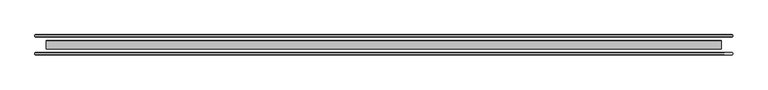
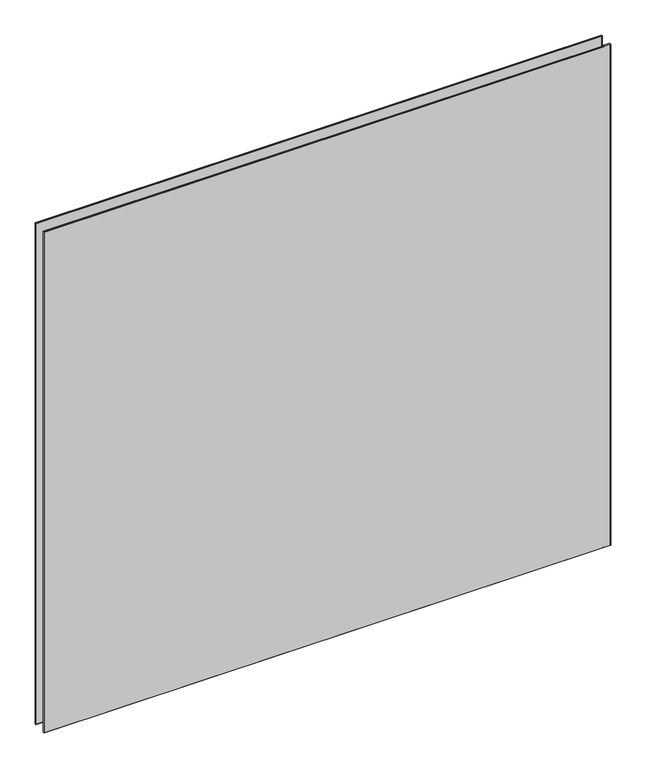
"""IFC4 building model written with IfcOpenShell, lengths in millimetres: plate geometry, AMG-2-Панель двойной витраж 8, 10 жалюзи : Смещение 32 Толщина 8mm."""

from ifc_helpers import new_model, si_unit, frame, origin, place, context, project, spatial, polyline, outline, extrude, faceted_brep, source, transform, mapped, element, save


def plate_18017d12(model_context):
    return source(origin(), model_context, "Body", "SolidModel", [
        extrude(outline(polyline([(0.0, -35.0000001), (0.0, 0.0), (2417.8, 0.0), (2417.8, -35.0000001), (0.0, -35.0000001)])), frame((1208.9, -14.9054446, 1385.7701123), z_axis=(0.0, -0.49999999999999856, 0.8660254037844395), x_axis=(-1.0, 0.0, 0.0)), (0.0, 0.0, 1.0), 1.0),
        extrude(outline(polyline([(0.0, -35.0000001), (0.0, 0.0), (2417.8, 0.0), (2417.8, -35.0000001), (0.0, -35.0000001)])), frame((1208.9, -14.9054446, 1430.7701123), z_axis=(0.0, -0.49999999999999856, 0.8660254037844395), x_axis=(-1.0, 0.0, 0.0)), (0.0, 0.0, 1.0), 1.0),
        extrude(outline(polyline([(0.0, -35.0000001), (0.0, 0.0), (2417.8, 0.0), (2417.8, -35.0000001), (0.0, -35.0000001)])), frame((1208.9, -14.9054446, 1475.7701123), z_axis=(0.0, -0.49999999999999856, 0.8660254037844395), x_axis=(-1.0, 0.0, 0.0)), (0.0, 0.0, 1.0), 1.0),
        extrude(outline(polyline([(0.0, -35.0000001), (0.0, 0.0), (2417.8, 0.0), (2417.8, -35.0000001), (0.0, -35.0000001)])), frame((1208.9, -14.9054446, 1520.7701123), z_axis=(0.0, -0.49999999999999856, 0.8660254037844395), x_axis=(-1.0, 0.0, 0.0)), (0.0, 0.0, 1.0), 1.0),
        extrude(outline(polyline([(0.0, -35.0000001), (0.0, 0.0), (2417.8, 0.0), (2417.8, -35.0000001), (0.0, -35.0000001)])), frame((1208.9, -14.9054446, 1565.7701123), z_axis=(0.0, -0.49999999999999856, 0.8660254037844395), x_axis=(-1.0, 0.0, 0.0)), (0.0, 0.0, 1.0), 1.0),
        extrude(outline(polyline([(0.0, -35.0000001), (0.0, 0.0), (2417.8, 0.0), (2417.8, -35.0000001), (0.0, -35.0000001)])), frame((1208.9, -14.9054446, 1610.7701123), z_axis=(0.0, -0.49999999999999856, 0.8660254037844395), x_axis=(-1.0, 0.0, 0.0)), (0.0, 0.0, 1.0), 1.0),
        extrude(outline(polyline([(0.0, -35.0000001), (0.0, 0.0), (2417.8, 0.0), (2417.8, -35.0000001), (0.0, -35.0000001)])), frame((1208.9, -14.9054446, 1655.7701123), z_axis=(0.0, -0.49999999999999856, 0.8660254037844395), x_axis=(-1.0, 0.0, 0.0)), (0.0, 0.0, 1.0), 1.0),
        extrude(outline(polyline([(0.0, -35.0000001), (0.0, 0.0), (2417.8, 0.0), (2417.8, -35.0000001), (0.0, -35.0000001)])), frame((1208.9, -14.9054446, 1700.7701123), z_axis=(0.0, -0.49999999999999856, 0.8660254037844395), x_axis=(-1.0, 0.0, 0.0)), (0.0, 0.0, 1.0), 1.0),
        extrude(outline(polyline([(0.0, -35.0000001), (0.0, 0.0), (2417.8, 0.0), (2417.8, -35.0000001), (0.0, -35.0000001)])), frame((1208.9, -14.9054446, 1745.7701123), z_axis=(0.0, -0.49999999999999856, 0.8660254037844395), x_axis=(-1.0, 0.0, 0.0)), (0.0, 0.0, 1.0), 1.0),
        extrude(outline(polyline([(0.0, -35.0000001), (0.0, 0.0), (2417.8, 0.0), (2417.8, -35.0000001), (0.0, -35.0000001)])), frame((1208.9, -14.9054446, 1790.7701123), z_axis=(0.0, -0.49999999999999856, 0.8660254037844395), x_axis=(-1.0, 0.0, 0.0)), (0.0, 0.0, 1.0), 1.0),
        extrude(outline(polyline([(0.0, -35.0000001), (0.0, 0.0), (2417.8, 0.0), (2417.8, -35.0000001), (0.0, -35.0000001)])), frame((1208.9, -14.9054446, 1835.7701123), z_axis=(0.0, -0.49999999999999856, 0.8660254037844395), x_axis=(-1.0, 0.0, 0.0)), (0.0, 0.0, 1.0), 1.0),
        extrude(outline(polyline([(0.0, -35.0000001), (0.0, 0.0), (2417.8, 0.0), (2417.8, -35.0000001), (0.0, -35.0000001)])), frame((1208.9, -14.9054446, 1880.7701123), z_axis=(0.0, -0.49999999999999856, 0.8660254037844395), x_axis=(-1.0, 0.0, 0.0)), (0.0, 0.0, 1.0), 1.0),
        extrude(outline(polyline([(0.0, -35.0000001), (0.0, 0.0), (2417.8, 0.0), (2417.8, -35.0000001), (0.0, -35.0000001)])), frame((1208.9, -14.9054446, 1925.7701123), z_axis=(0.0, -0.49999999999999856, 0.8660254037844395), x_axis=(-1.0, 0.0, 0.0)), (0.0, 0.0, 1.0), 1.0),
        extrude(outline(polyline([(0.0, -35.0000001), (0.0, 0.0), (2417.8, 0.0), (2417.8, -35.0000001), (0.0, -35.0000001)])), frame((1208.9, -14.9054446, 1970.7701123), z_axis=(0.0, -0.49999999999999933, 0.8660254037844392), x_axis=(-1.0, 0.0, 0.0)), (0.0, 0.0, 1.0), 1.0),
        extrude(outline(polyline([(0.0, -35.0000001), (0.0, 0.0), (2417.8, 0.0), (2417.8, -35.0000001), (0.0, -35.0000001)])), frame((1208.9, -14.9054446, 2015.7701123), z_axis=(0.0, -0.49999999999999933, 0.8660254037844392), x_axis=(-1.0, 0.0, 0.0)), (0.0, 0.0, 1.0), 1.0),
        extrude(outline(polyline([(0.0, -35.0000001), (0.0, 0.0), (2417.8, 0.0), (2417.8, -35.0000001), (0.0, -35.0000001)])), frame((1208.9, -14.9054446, 2060.7701123), z_axis=(0.0, -0.49999999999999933, 0.8660254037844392), x_axis=(-1.0, 0.0, 0.0)), (0.0, 0.0, 1.0), 1.0),
        extrude(outline(polyline([(0.0, -35.0000001), (0.0, 0.0), (2417.8, 0.0), (2417.8, -35.0000001), (0.0, -35.0000001)])), frame((1208.9, -14.9054446, 2105.7701123), z_axis=(0.0, -0.4999999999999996, 0.8660254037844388), x_axis=(-1.0, 0.0, 0.0)), (0.0, 0.0, 1.0), 1.0),
        extrude(outline(polyline([(0.0, -35.0000001), (0.0, 0.0), (2417.8, 0.0), (2417.8, -35.0000001), (0.0, -35.0000001)])), frame((1208.9, -14.9054446, 2150.7701123), z_axis=(0.0, -0.4999999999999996, 0.8660254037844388), x_axis=(-1.0, 0.0, 0.0)), (0.0, 0.0, 1.0), 1.0),
        extrude(outline(polyline([(0.0, -35.0000001), (0.0, 0.0), (2417.8, 0.0), (2417.8, -35.0000001), (0.0, -35.0000001)])), frame((1208.9, -14.9054446, 2195.7701123), z_axis=(0.0, -0.4999999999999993, 0.866025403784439), x_axis=(-1.0, 0.0, 0.0)), (0.0, 0.0, 1.0), 1.0),
        extrude(outline(polyline([(0.0, -35.0000001), (0.0, 0.0), (2417.8, 0.0), (2417.8, -35.0000001), (0.0, -35.0000001)])), frame((1208.9, -14.9054446, 2240.7701123), z_axis=(0.0, -0.4999999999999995, 0.866025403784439), x_axis=(-1.0, 0.0, 0.0)), (0.0, 0.0, 1.0), 1.0),
        faceted_brep([(1248.9, -34.4961653, 2327.3062095), (1248.9, -29.5038347, 2327.3062095), (1247.3961653, -28.0, 2327.3062095), (1221.125981, -28.0, 2327.3062095), (1221.125981, -29.5038347, 2327.3062095), (-1248.9, -29.5038347, 2327.3062095), (-1248.9, -34.4961653, 2327.3062095), (1221.125981, -34.4961653, 2327.3062095), (1221.125981, -36.0, 2327.3062095), (1247.3961653, -36.0, 2327.3062095), (1248.9, -29.5038347, -7.0), (1248.9, -34.4961653, -7.0), (1247.3961653, -36.0, -7.0), (1221.125981, -36.0, -7.0), (1221.125981, -34.4961653, -7.0), (-1248.9, -34.4961653, -7.0), (-1248.9, -29.5038347, -7.0), (1221.125981, -29.4960578, -7.0), (1221.125981, -28.0, -7.0), (1247.3961653, -28.0, -7.0), (1221.125981, -28.0, -5.5039422), (-1247.3961653, -28.0, -5.5039422), (-1247.3961653, -28.0, 2325.8023748), (1221.125981, -28.0, 2325.8023748), (1221.125981, -36.0, 2325.8023748), (-1247.3961653, -36.0, 2325.8023748), (-1247.3961653, -36.0, -5.4961653), (1221.125981, -36.0, -5.4961653)], [[[0, 1, 2, 3, 4, 5, 6, 7, 8, 9]], [[10, 11, 12, 13, 14, 15, 16, 17, 18, 19]], [[2, 19, 18, 20, 21, 22, 23, 3]], [[6, 5, 16, 15]], [[12, 9, 8, 24, 25, 26, 27, 13]], [[1, 0, 11, 10]], [[2, 1, 10, 19]], [[0, 9, 12, 11]], [[24, 7, 6, 25]], [[4, 23, 22, 5]], [[16, 5, 22, 21]], [[6, 15, 26, 25]], [[14, 27, 26, 15]], [[20, 17, 16, 21]], [[7, 24, 8]], [[23, 4, 3]], [[27, 14, 13]], [[17, 20, 18]]]),
        faceted_brep([(1248.9, 29.5038347, 2327.3062095), (1248.9, 34.4961653, 2327.3062095), (-1248.9, 34.4961653, 2327.3062095), (-1248.9, 29.5038347, 2327.3062095), (1248.9, 34.4961653, -7.0), (1248.9, 29.5038347, -7.0), (-1248.9, 29.5038347, -7.0), (-1248.9, 34.4961653, -7.0), (-1247.3961653, 36.0, 2325.8023748), (1247.3961653, 36.0, 2325.8023748), (1247.3961653, 36.0, -5.5039422), (-1247.3961653, 36.0, -5.5039422), (1247.3961653, 28.0, 2325.8023748), (-1247.3961653, 28.0, 2325.8023748), (-1247.3961653, 28.0, -5.4961653), (1247.3961653, 28.0, -5.4961653)], [[[0, 1, 2, 3]], [[4, 5, 6, 7]], [[8, 9, 10, 11]], [[3, 2, 7, 6]], [[12, 13, 14, 15]], [[1, 0, 5, 4]], [[1, 4, 10, 9]], [[5, 0, 12, 15]], [[7, 2, 8, 11]], [[3, 6, 14, 13]], [[0, 3, 13, 12]], [[2, 1, 9, 8]], [[6, 5, 15, 14]], [[4, 7, 11, 10]]]),
    ])


if __name__ == "__main__":
    model = new_model("IFC4")
    model_context = context("Model", 3, world=origin())
    ifc_project = project(units=[si_unit("LENGTHUNIT", "METRE", prefix="MILLI")], contexts=[model_context])
    site = spatial("IfcSite", under=ifc_project)
    building = spatial("IfcBuilding", under=site)
    placement = place(None, origin())
    plate_shape = plate_18017d12(model_context)
    element("IfcPlate", 1, ObjectType="AMG-2-Панель двойной витраж 8, 10 жалюзи : Смещение 32 Толщина 8mm", at=placement, inside=building, context=model_context, shape_type="MappedRepresentation", body=[
        mapped(plate_shape, transform((0.0, 0.0, 0.0), x_axis=(1.0, 0.0, 0.0), y_axis=(0.0, 1.0, 0.0), z_axis=(0.0, 0.0, 1.0))),
    ])
    save(model, "model.ifc")
